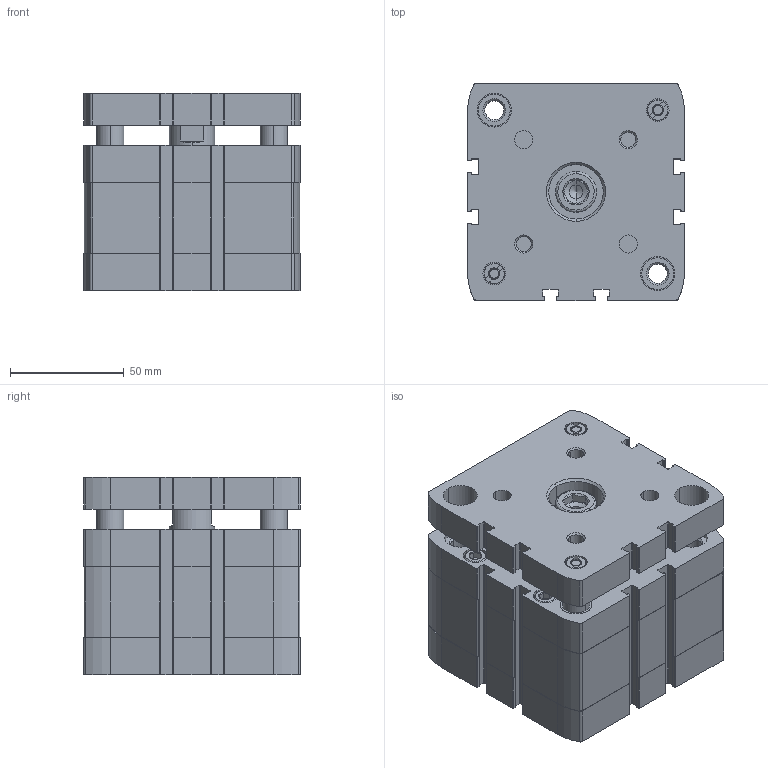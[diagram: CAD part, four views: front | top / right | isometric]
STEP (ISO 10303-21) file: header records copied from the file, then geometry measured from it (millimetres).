
FILE_DESCRIPTION (( 'STEP AP203' ), '1' );
FILE_NAME ('CCNG80-10.STEP', '2017-04-20T16:34:56', ( '' ), ( '' ), 'SwSTEP 2.0', 'SolidWorks 2016', '' );
FILE_SCHEMA (( 'CONFIG_CONTROL_DESIGN' ));
Length unit declared in the file: millimetre
Products named in the file (3): CCNG-80-10---(Z); CCNG-80-10----(KS); CCNG80-10
Assembly tree (2 placements, depth 2):
  CCNG80-10
    CCNG-80-10---(Z)
    CCNG-80-10----(KS)
Bounding box: 95.5 x 95.5 x 86.9 mm (x, y, z)
Volume: 613763.8 mm3; surface area: 126312.4 mm2
Topology: 2 solids, 4 shells, 749 faces, 1970 edges, 1267 vertices
Faces by surface type: plane 319, cylinder 280, cone 144, bspline 6
Entity records: 24025 total; most frequent: CARTESIAN_POINT 4757, DIRECTION 4142, ORIENTED_EDGE 3904, EDGE_CURVE 1952, AXIS2_PLACEMENT_3D 1536, VERTEX_POINT 1267, VECTOR 1070, LINE 1070
